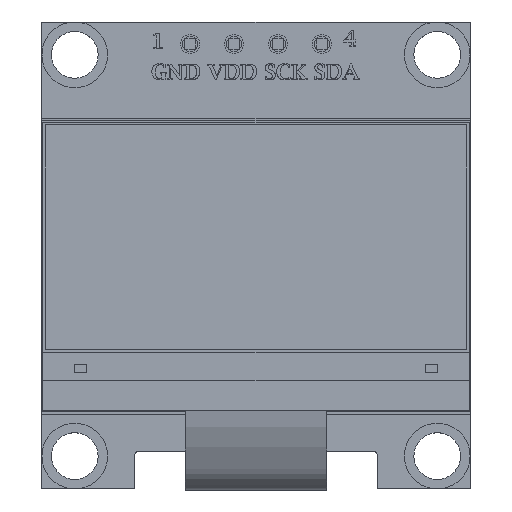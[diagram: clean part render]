
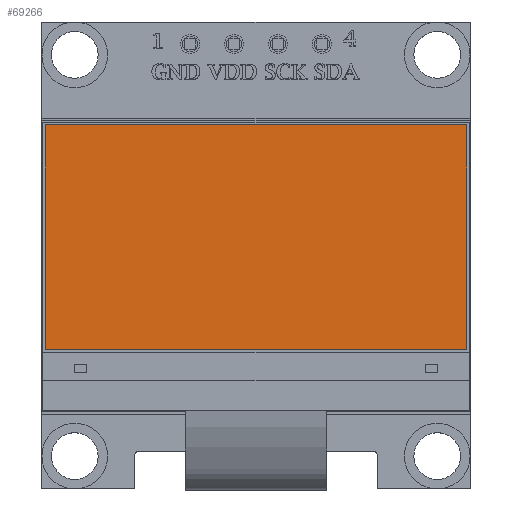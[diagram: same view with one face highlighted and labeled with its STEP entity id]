
A CAD part, top view. The second image highlights one B-rep face of the part: STEP entity #69266.
In plain terms, the highlighted planar face has unit normal (0, 0, 1).
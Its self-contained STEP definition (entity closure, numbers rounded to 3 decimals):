
#6026=FACE_OUTER_BOUND('',#10130,.T.);
#10130=EDGE_LOOP('',(#46500,#46501,#46502,#46503));
#14429=LINE('',#89942,#21561);
#14433=LINE('',#89950,#21565);
#14436=LINE('',#89956,#21568);
#14439=LINE('',#89961,#21571);
#21561=VECTOR('',#77017,10.);
#21565=VECTOR('',#77023,10.);
#21568=VECTOR('',#77028,10.);
#21571=VECTOR('',#77033,10.);
#28629=VERTEX_POINT('',#89940);
#28630=VERTEX_POINT('',#89941);
#28633=VERTEX_POINT('',#89949);
#28635=VERTEX_POINT('',#89955);
#35669=EDGE_CURVE('',#28629,#28630,#14429,.T.);
#35673=EDGE_CURVE('',#28633,#28629,#14433,.T.);
#35676=EDGE_CURVE('',#28635,#28633,#14436,.T.);
#35679=EDGE_CURVE('',#28630,#28635,#14439,.T.);
#46500=ORIENTED_EDGE('',*,*,#35669,.T.);
#46501=ORIENTED_EDGE('',*,*,#35679,.T.);
#46502=ORIENTED_EDGE('',*,*,#35676,.T.);
#46503=ORIENTED_EDGE('',*,*,#35673,.T.);
#66912=PLANE('',#73648);
#69266=ADVANCED_FACE('',(#6026),#66912,.T.);
#73648=AXIS2_PLACEMENT_3D('',#89963,#77035,#77036);
#77017=DIRECTION('',(0.,1.,0.));
#77023=DIRECTION('',(1.,0.,0.));
#77028=DIRECTION('',(0.,-1.,0.));
#77033=DIRECTION('',(-1.,0.,0.));
#77035=DIRECTION('center_axis',(0.,0.,1.));
#77036=DIRECTION('ref_axis',(1.,0.,0.));
#89940=CARTESIAN_POINT('',(12.2,-5.45,1.691));
#89941=CARTESIAN_POINT('',(12.2,7.55,1.691));
#89942=CARTESIAN_POINT('',(12.2,-2.2,1.691));
#89949=CARTESIAN_POINT('',(-12.2,-5.45,1.691));
#89950=CARTESIAN_POINT('',(-6.1,-5.45,1.691));
#89955=CARTESIAN_POINT('',(-12.2,7.55,1.691));
#89956=CARTESIAN_POINT('',(-12.2,4.3,1.691));
#89961=CARTESIAN_POINT('',(6.1,7.55,1.691));
#89963=CARTESIAN_POINT('Origin',(0.,1.05,1.691));
